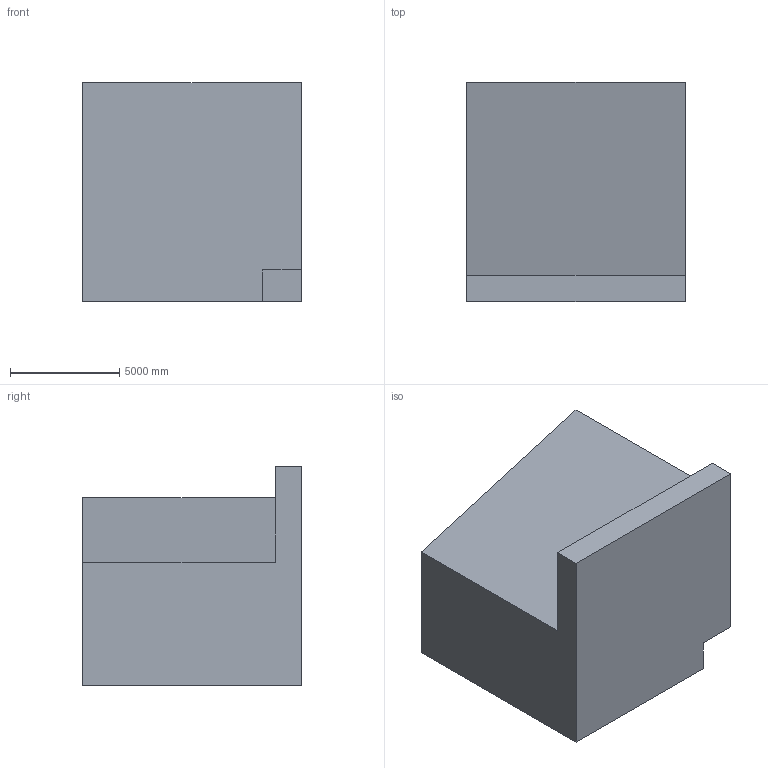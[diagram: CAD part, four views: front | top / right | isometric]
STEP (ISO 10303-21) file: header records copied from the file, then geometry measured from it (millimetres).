
FILE_DESCRIPTION (( 'STEP AP203' ), '1' );
FILE_NAME ('173.STEP', '2022-07-28T13:48:38', ( 'user' ), ( '' ), 'SwSTEP 2.0', 'SolidWorks 2021', '' );
FILE_SCHEMA (( 'CONFIG_CONTROL_DESIGN' ));
Length unit declared in the file: centimetre
Products named in the file (1): 173
Bounding box: 10000 x 10000 x 10000 mm (x, y, z)
Volume: 734231406234.1 mm3; surface area: 552637344.9 mm2
Topology: 1 solids, 1 shells, 11 faces, 27 edges, 18 vertices
Faces by surface type: plane 11
Entity records: 398 total; most frequent: CARTESIAN_POINT 57, ORIENTED_EDGE 54, DIRECTION 51, VECTOR 27, EDGE_CURVE 27, LINE 27, VERTEX_POINT 18, AXIS2_PLACEMENT_3D 12
